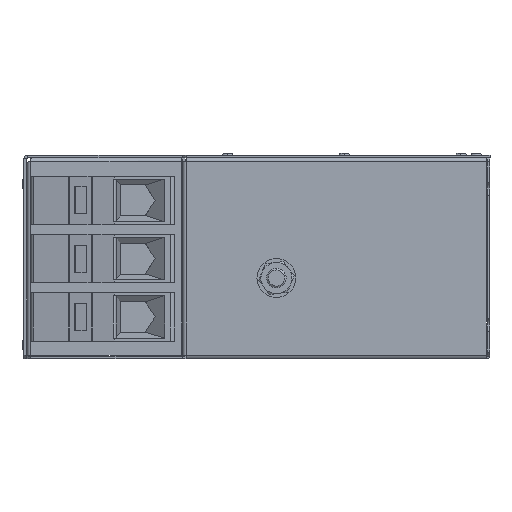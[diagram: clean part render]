
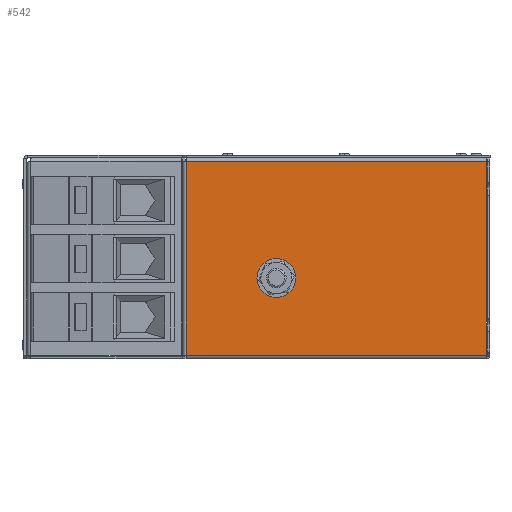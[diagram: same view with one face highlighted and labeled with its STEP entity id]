
A CAD part, left-side view. The second image highlights one B-rep face of the part: STEP entity #542.
In plain terms, the highlighted planar face has unit normal (-1, 0, 0).
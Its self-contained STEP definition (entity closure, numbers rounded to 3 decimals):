
#418 = VERTEX_POINT ( 'NONE', #11235 ) ;
#473 = EDGE_CURVE ( 'NONE', #418, #1893, #16530, .T. ) ;
#529 = CARTESIAN_POINT ( 'NONE',  ( -153.5, 108.5, -10.854 ) ) ;
#542 = ADVANCED_FACE ( 'NONE', ( #9393, #16744 ), #11532, .F. ) ;
#902 = LINE ( 'NONE', #1122, #14411 ) ;
#991 = EDGE_CURVE ( 'NONE', #14751, #1893, #4745, .T. ) ;
#1122 = CARTESIAN_POINT ( 'NONE',  ( -153.5, 0.5, 49. ) ) ;
#1689 = EDGE_LOOP ( 'NONE', ( #13855, #3311, #3875, #7606 ) ) ;
#1769 = VECTOR ( 'NONE', #16013, 1000. ) ;
#1893 = VERTEX_POINT ( 'NONE', #15549 ) ;
#1968 = CARTESIAN_POINT ( 'NONE',  ( -153.5, 0.5, -50.5 ) ) ;
#2675 = LINE ( 'NONE', #14072, #12586 ) ;
#3144 = VERTEX_POINT ( 'NONE', #11859 ) ;
#3250 = EDGE_LOOP ( 'NONE', ( #3840, #5232 ) ) ;
#3311 = ORIENTED_EDGE ( 'NONE', *, *, #473, .T. ) ;
#3321 = EDGE_CURVE ( 'NONE', #3144, #418, #902, .T. ) ;
#3369 = CARTESIAN_POINT ( 'NONE',  ( -153.5, 108.5, -5.854 ) ) ;
#3640 = EDGE_CURVE ( 'NONE', #7068, #5115, #11644, .T. ) ;
#3761 = CARTESIAN_POINT ( 'NONE',  ( -153.5, 0., 0. ) ) ;
#3840 = ORIENTED_EDGE ( 'NONE', *, *, #3640, .T. ) ;
#3875 = ORIENTED_EDGE ( 'NONE', *, *, #991, .F. ) ;
#4745 = LINE ( 'NONE', #17178, #12088 ) ;
#5115 = VERTEX_POINT ( 'NONE', #3369 ) ;
#5232 = ORIENTED_EDGE ( 'NONE', *, *, #11095, .T. ) ;
#5362 = CARTESIAN_POINT ( 'NONE',  ( -153.5, 108.5, -10.854 ) ) ;
#5722 = DIRECTION ( 'NONE',  ( 1., 0., 0. ) ) ;
#6584 = DIRECTION ( 'NONE',  ( 1., 0., 0. ) ) ;
#6595 = DIRECTION ( 'NONE',  ( 1., 0., 0. ) ) ;
#7068 = VERTEX_POINT ( 'NONE', #11037 ) ;
#7606 = ORIENTED_EDGE ( 'NONE', *, *, #17420, .T. ) ;
#7700 = DIRECTION ( 'NONE',  ( 0., 1., 0. ) ) ;
#8048 = CIRCLE ( 'NONE', #13302, 5. ) ;
#9393 = FACE_BOUND ( 'NONE', #3250, .T. ) ;
#9840 = AXIS2_PLACEMENT_3D ( 'NONE', #529, #5722, #16682 ) ;
#10540 = AXIS2_PLACEMENT_3D ( 'NONE', #3761, #6584, #11875 ) ;
#11037 = CARTESIAN_POINT ( 'NONE',  ( -153.5, 108.5, -15.854 ) ) ;
#11095 = EDGE_CURVE ( 'NONE', #5115, #7068, #8048, .T. ) ;
#11235 = CARTESIAN_POINT ( 'NONE',  ( -153.5, 155., 49. ) ) ;
#11532 = PLANE ( 'NONE',  #10540 ) ;
#11644 = CIRCLE ( 'NONE', #9840, 5. ) ;
#11859 = CARTESIAN_POINT ( 'NONE',  ( -153.5, 0.5, 49. ) ) ;
#11875 = DIRECTION ( 'NONE',  ( 0., 0., -1. ) ) ;
#12088 = VECTOR ( 'NONE', #7700, 1000. ) ;
#12586 = VECTOR ( 'NONE', #12813, 1000. ) ;
#12813 = DIRECTION ( 'NONE',  ( 0., 0., 1. ) ) ;
#13302 = AXIS2_PLACEMENT_3D ( 'NONE', #5362, #6595, #14731 ) ;
#13855 = ORIENTED_EDGE ( 'NONE', *, *, #3321, .T. ) ;
#14072 = CARTESIAN_POINT ( 'NONE',  ( -153.5, 0.5, 0. ) ) ;
#14411 = VECTOR ( 'NONE', #16158, 1000. ) ;
#14731 = DIRECTION ( 'NONE',  ( 0., 0., -1. ) ) ;
#14751 = VERTEX_POINT ( 'NONE', #1968 ) ;
#15549 = CARTESIAN_POINT ( 'NONE',  ( -153.5, 155., -50.5 ) ) ;
#15617 = CARTESIAN_POINT ( 'NONE',  ( -153.5, 155., 51. ) ) ;
#16013 = DIRECTION ( 'NONE',  ( 0., 0., -1. ) ) ;
#16158 = DIRECTION ( 'NONE',  ( 0., 1., 0. ) ) ;
#16530 = LINE ( 'NONE', #15617, #1769 ) ;
#16682 = DIRECTION ( 'NONE',  ( 0., 0., -1. ) ) ;
#16744 = FACE_OUTER_BOUND ( 'NONE', #1689, .T. ) ;
#17178 = CARTESIAN_POINT ( 'NONE',  ( -153.5, 157., -50.5 ) ) ;
#17420 = EDGE_CURVE ( 'NONE', #14751, #3144, #2675, .T. ) ;
